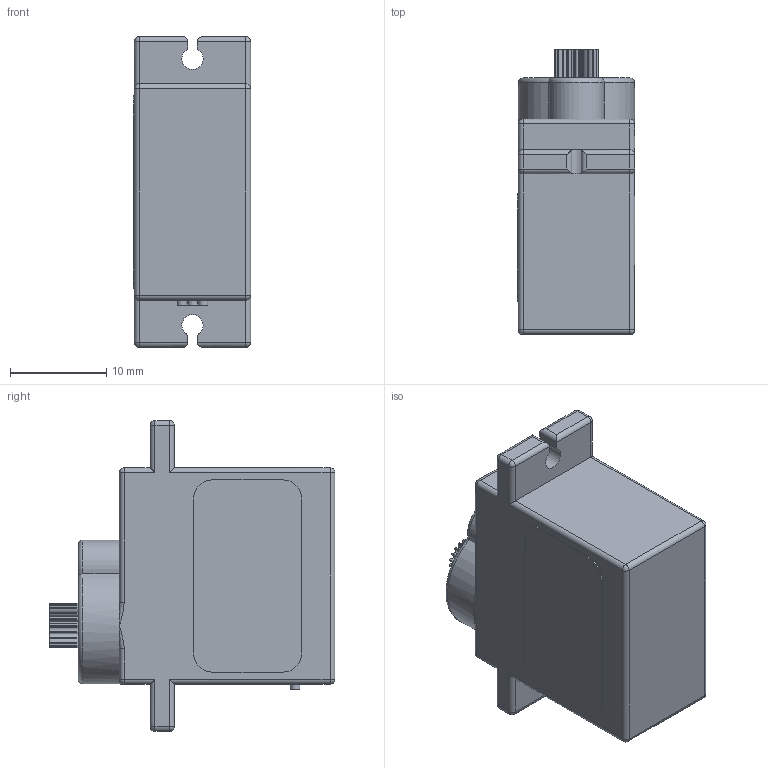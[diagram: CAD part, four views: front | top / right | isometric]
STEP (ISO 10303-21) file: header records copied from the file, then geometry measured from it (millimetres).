
FILE_DESCRIPTION (( 'STEP AP214' ), '1' );
FILE_NAME ('Fitec FS90R Micro Servo NoConnector.STEP', '2025-01-03T17:52:40', ( '' ), ( '' ), 'SwSTEP 2.0', 'SolidWorks 2022', '' );
FILE_SCHEMA (( 'AUTOMOTIVE_DESIGN' ));
Length unit declared in the file: millimetre
Products named in the file (1): Fitec FS90R Micro Servo NoConnector
Bounding box: 12.2 x 29.7 x 32.3 mm (x, y, z)
Volume: 3075.6 mm3; surface area: 4692.5 mm2
Topology: 6 solids, 6 shells, 213 faces, 541 edges, 323 vertices
Faces by surface type: cylinder 142, plane 48, sphere 16, bspline 5, torus 2
Full cylindrical faces by diameter (mm): 1 x4, 4.86 x1
Entity records: 8851 total; most frequent: CARTESIAN_POINT 1299, DIRECTION 1172, ORIENTED_EDGE 1030, EDGE_CURVE 515, AXIS2_PLACEMENT_3D 471, VERTEX_POINT 322, CIRCLE 262, LINE 230
